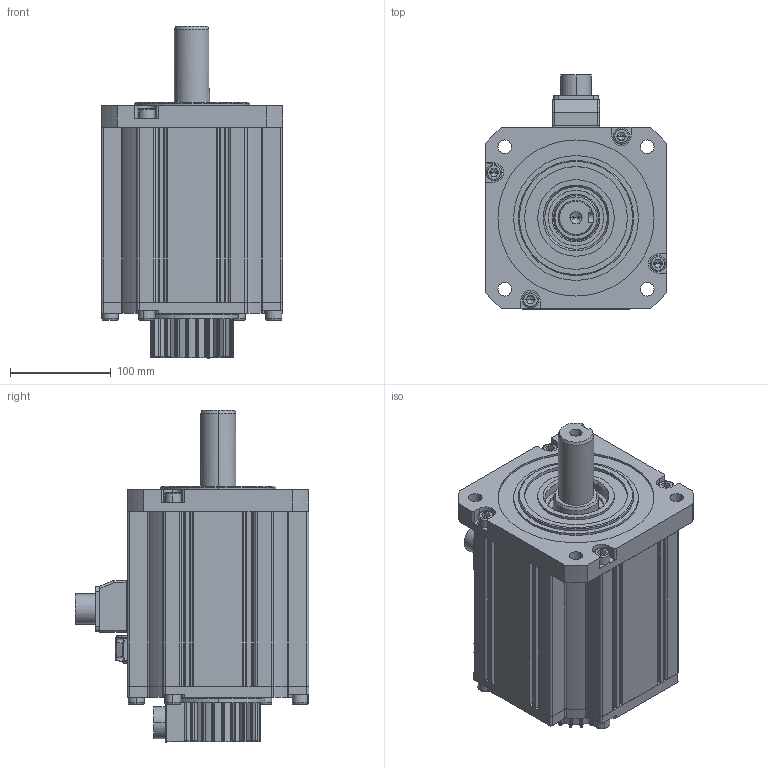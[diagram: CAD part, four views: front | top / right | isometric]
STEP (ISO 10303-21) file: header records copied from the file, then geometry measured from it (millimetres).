
FILE_DESCRIPTION((''),'2;1');
FILE_NAME('ASM0001_ASM','2019-08-22T',('jiangfei6'),(''),'CREO PARAMETRIC BY PTC INC, 2015480','CREO PARAMETRIC BY PTC INC, 2015480','');
FILE_SCHEMA(('CONFIG_CONTROL_DESIGN'));
Length unit declared in the file: millimetre
Products named in the file (27): HEXAGON_SOCKET_HEAD_CAP_S-421_1; _____-001_1_2_3_4_1; ______-001111_1_2_3_4_1; 180-__-41976_1_1; PRODUCT_7197_1_1; 180-__-41996_1_1; PRODUCT_7163_1_1; PRODUCT_7146_1_ASM_1_ASM; __-__24_1__1_2_3_4_1; __-__25_1_2_3_4_1; 180-____1_2_3_4_5_ASM_1_ASM; 180-__1_2_3_4_5_6_1; PRODUCT_7095_1_1; PRODUCT_7078_1_ASM_1_ASM; DEEP_GROOVE_BALL_BEARINGS-422_2; DEEP_GROOVE_BALL_BEARINGS-422_1; ___-002_1_2_3_4_1; HEXAGON_SOCKET_HEAD_CAP_S-421_2; HEXAGON_SOCKET_HEAD_CAP_S-421_3; PRODUCT_6976_1_ASM_1_ASM; PRODUCT_6959_1_ASM_1_ASM; PRODUCT_6942_1_1; PRODUCT_6925_1_1; 130-___1_2_3_4_5_6_1; R180-3_0KW_1_ASM_1_ASM; ASM0003_ASM_1_ASM; ASM0001_ASM
Assembly tree (33 placements, depth 7):
  ASM0001_ASM
    ASM0003_ASM_1_ASM
      R180-3_0KW_1_ASM_1_ASM
        HEXAGON_SOCKET_HEAD_CAP_S-421_1  x8
        _____-001_1_2_3_4_1
        ______-001111_1_2_3_4_1
        PRODUCT_6959_1_ASM_1_ASM
          PRODUCT_7146_1_ASM_1_ASM
            180-__-41976_1_1
            PRODUCT_7197_1_1
            180-__-41996_1_1
            PRODUCT_7163_1_1
          180-____1_2_3_4_5_ASM_1_ASM
            __-__24_1__1_2_3_4_1
            __-__25_1_2_3_4_1
          PRODUCT_6976_1_ASM_1_ASM
            PRODUCT_7078_1_ASM_1_ASM
              180-__1_2_3_4_5_6_1
              PRODUCT_7095_1_1
            DEEP_GROOVE_BALL_BEARINGS-422_2
            DEEP_GROOVE_BALL_BEARINGS-422_1
            ___-002_1_2_3_4_1
            HEXAGON_SOCKET_HEAD_CAP_S-421_2
            HEXAGON_SOCKET_HEAD_CAP_S-421_3
        PRODUCT_6942_1_1
        PRODUCT_6925_1_1
        130-___1_2_3_4_5_6_1
Bounding box: 180 x 232.15 x 329.5 mm (x, y, z)
Volume: 1869760.7 mm3; surface area: 615726.2 mm2
Topology: 26 solids, 26 shells, 2121 faces, 5880 edges, 3633 vertices
Faces by surface type: cylinder 910, plane 611, sphere 224, cone 212, torus 146, bspline 18
Entity records: 65922 total; most frequent: CARTESIAN_POINT 15120, DIRECTION 11030, ORIENTED_EDGE 10508, EDGE_CURVE 5254, AXIS2_PLACEMENT_3D 4492, VERTEX_POINT 3402, CIRCLE 2472, EDGE_LOOP 2226
